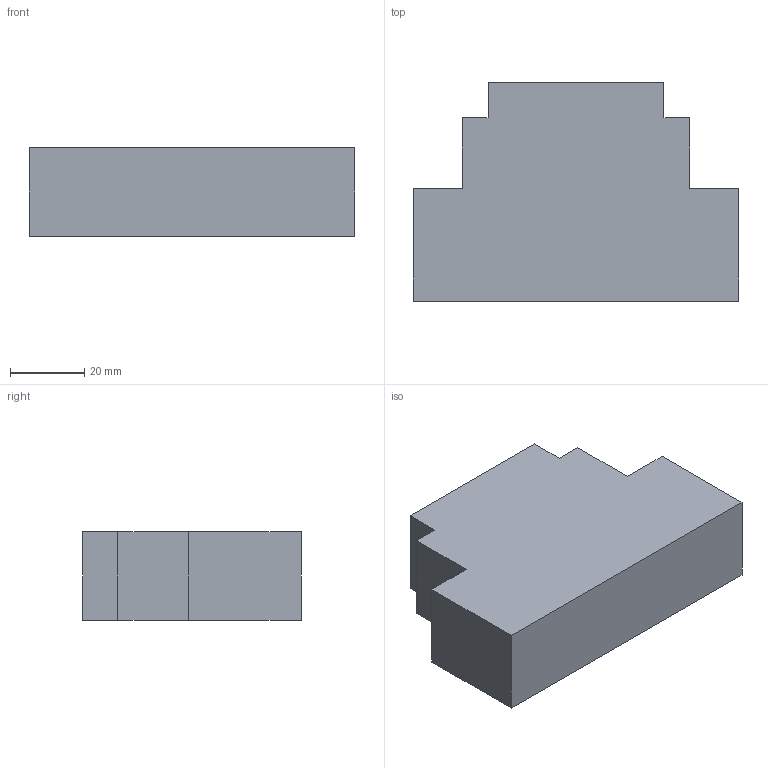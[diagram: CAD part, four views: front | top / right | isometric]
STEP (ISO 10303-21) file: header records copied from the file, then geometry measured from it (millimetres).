
FILE_DESCRIPTION(/* description */ (''),/* implementation_level */ '2;1');
FILE_NAME(/* name */ 'ls-滤波器-20240731.stp',/* time_stamp */ '2024-11-29T08:40:00+08:00',/* author */ (''),/* organization */ (''),/* preprocessor_version */ 'ST-DEVELOPER v16',/* originating_system */ 'SIEMENS PLM Software NX 10.0',/* authorisation */ '');
FILE_SCHEMA (('AUTOMOTIVE_DESIGN { 1 0 10303 214 3 1 1 1 }'));
Length unit declared in the file: millimetre
Products named in the file (1): chao0F90A99Aos1m
Bounding box: 88 x 59 x 24 mm (x, y, z)
Volume: 101134.1 mm3; surface area: 16668.4 mm2
Topology: 1 solids, 1 shells, 35 faces, 80 edges, 56 vertices
Faces by surface type: plane 27, cylinder 8
Full cylindrical faces by diameter (mm): 4 x8
Entity records: 914 total; most frequent: DIRECTION 152, CARTESIAN_POINT 148, ORIENTED_EDGE 128, EDGE_CURVE 64, EDGE_LOOP 52, AXIS2_PLACEMENT_3D 52, VERTEX_POINT 48, LINE 48
